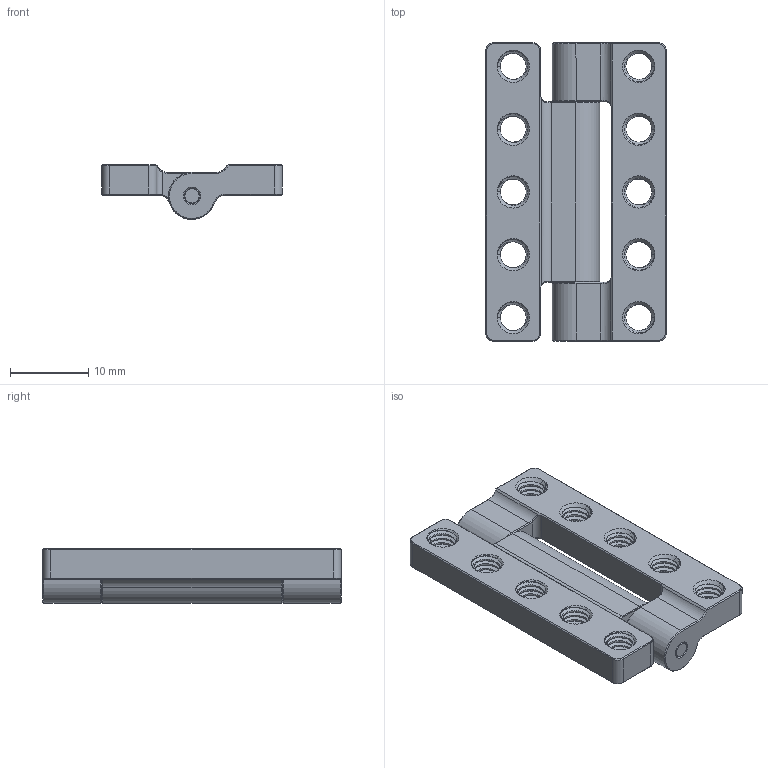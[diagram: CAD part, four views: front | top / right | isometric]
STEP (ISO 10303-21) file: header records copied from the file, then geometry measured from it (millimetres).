
FILE_DESCRIPTION (( 'STEP AP203' ), '1' );
FILE_NAME ('2902-0005-0038 assembly.STEP', '2022-02-14T22:15:01', ( '' ), ( '' ), 'SwSTEP 2.0', 'SolidWorks 2016', '' );
FILE_SCHEMA (( 'CONFIG_CONTROL_DESIGN' ));
Length unit declared in the file: millimetre
Products named in the file (4): 2902-0005-0038 pt 2; 2902-0005-0038 pt 1; 2902-0005-0038 assembly; 2902-0005-0038 pt 3
Assembly tree (3 placements, depth 2):
  2902-0005-0038 assembly
    2902-0005-0038 pt 2
    2902-0005-0038 pt 1
    2902-0005-0038 pt 3
Bounding box: 23 x 38 x 7 mm (x, y, z)
Volume: 2999.8 mm3; surface area: 3447.5 mm2
Topology: 3 solids, 3 shells, 440 faces, 1199 edges, 765 vertices
Faces by surface type: cylinder 260, cone 103, plane 49, bspline 28
Entity records: 39704 total; most frequent: CARTESIAN_POINT 29578, ORIENTED_EDGE 2398, DIRECTION 1724, EDGE_CURVE 1199, VERTEX_POINT 765, AXIS2_PLACEMENT_3D 647, EDGE_LOOP 466, ADVANCED_FACE 440
